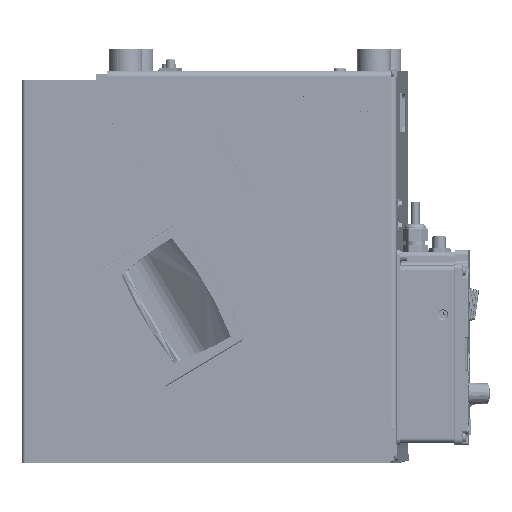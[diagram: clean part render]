
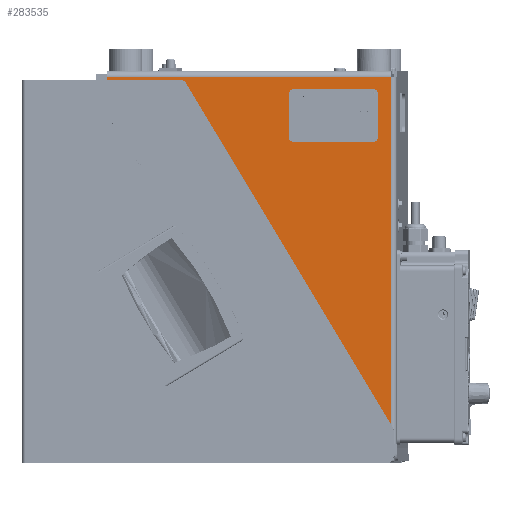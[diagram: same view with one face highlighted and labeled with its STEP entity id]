
A CAD part, front view. The second image highlights one B-rep face of the part: STEP entity #283535.
In plain terms, the highlighted planar face has unit normal (-0.023, -1, 0) by its records, which use the part's own axes.
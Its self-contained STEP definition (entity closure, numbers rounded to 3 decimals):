
#8345=FACE_BOUND($,#33384,.T.);
#16671=FACE_OUTER_BOUND($,#33383,.T.);
#33383=EDGE_LOOP($,(#194712,#194713,#194714,#194715,#194716,#194717,#194718,
#194719,#194720,#194721,#194722,#194723));
#33384=EDGE_LOOP($,(#194724,#194725,#194726,#194727,#194728,#194729,#194730,
#194731));
#47925=CIRCLE($,#300195,4.);
#47926=CIRCLE($,#300198,4.);
#47927=CIRCLE($,#300201,4.);
#47928=CIRCLE($,#300204,4.);
#47929=CIRCLE($,#300207,2.);
#47930=CIRCLE($,#300208,2.);
#47931=CIRCLE($,#300209,2.);
#57510=LINE($,#421710,#86703);
#57514=LINE($,#421719,#86707);
#57517=LINE($,#421727,#86710);
#57520=LINE($,#421735,#86713);
#57521=LINE($,#421742,#86714);
#57522=LINE($,#421744,#86715);
#57523=LINE($,#421748,#86716);
#57524=LINE($,#421750,#86717);
#57525=LINE($,#421752,#86718);
#57526=LINE($,#421754,#86719);
#57527=LINE($,#421756,#86720);
#57528=LINE($,#421758,#86721);
#57529=LINE($,#421762,#86722);
#86703=VECTOR($,#331358,39.);
#86707=VECTOR($,#331368,72.);
#86710=VECTOR($,#331377,39.);
#86713=VECTOR($,#331386,72.);
#86714=VECTOR($,#331395,13.452);
#86715=VECTOR($,#331396,4.);
#86716=VECTOR($,#331399,3.);
#86717=VECTOR($,#331400,1.);
#86718=VECTOR($,#331401,330.);
#86719=VECTOR($,#331402,255.);
#86720=VECTOR($,#331403,11.);
#86721=VECTOR($,#331404,60.605);
#86722=VECTOR($,#331407,359.963);
#117001=VERTEX_POINT($,#421707);
#117002=VERTEX_POINT($,#421709);
#117003=VERTEX_POINT($,#421713);
#117004=VERTEX_POINT($,#421717);
#117005=VERTEX_POINT($,#421721);
#117006=VERTEX_POINT($,#421725);
#117007=VERTEX_POINT($,#421729);
#117008=VERTEX_POINT($,#421733);
#117009=VERTEX_POINT($,#421740);
#117010=VERTEX_POINT($,#421741);
#117011=VERTEX_POINT($,#421743);
#117012=VERTEX_POINT($,#421745);
#117013=VERTEX_POINT($,#421747);
#117014=VERTEX_POINT($,#421749);
#117015=VERTEX_POINT($,#421751);
#117016=VERTEX_POINT($,#421753);
#117017=VERTEX_POINT($,#421755);
#117018=VERTEX_POINT($,#421757);
#117019=VERTEX_POINT($,#421759);
#117020=VERTEX_POINT($,#421761);
#146282=EDGE_CURVE($,#117002,#117001,#57510,.T.);
#146285=EDGE_CURVE($,#117001,#117003,#47925,.T.);
#146287=EDGE_CURVE($,#117003,#117004,#57514,.T.);
#146289=EDGE_CURVE($,#117004,#117005,#47926,.T.);
#146291=EDGE_CURVE($,#117005,#117006,#57517,.T.);
#146293=EDGE_CURVE($,#117006,#117007,#47927,.T.);
#146295=EDGE_CURVE($,#117007,#117008,#57520,.T.);
#146296=EDGE_CURVE($,#117008,#117002,#47928,.T.);
#146297=EDGE_CURVE($,#117009,#117010,#57521,.T.);
#146298=EDGE_CURVE($,#117010,#117011,#57522,.T.);
#146299=EDGE_CURVE($,#117012,#117011,#47929,.T.);
#146300=EDGE_CURVE($,#117012,#117013,#57523,.T.);
#146301=EDGE_CURVE($,#117013,#117014,#57524,.T.);
#146302=EDGE_CURVE($,#117015,#117014,#57525,.T.);
#146303=EDGE_CURVE($,#117015,#117016,#57526,.T.);
#146304=EDGE_CURVE($,#117016,#117017,#57527,.T.);
#146305=EDGE_CURVE($,#117017,#117018,#57528,.T.);
#146306=EDGE_CURVE($,#117018,#117019,#47930,.T.);
#146307=EDGE_CURVE($,#117019,#117020,#57529,.T.);
#146308=EDGE_CURVE($,#117020,#117009,#47931,.T.);
#194712=ORIENTED_EDGE($,*,*,#146297,.T.);
#194713=ORIENTED_EDGE($,*,*,#146298,.T.);
#194714=ORIENTED_EDGE($,*,*,#146299,.F.);
#194715=ORIENTED_EDGE($,*,*,#146300,.T.);
#194716=ORIENTED_EDGE($,*,*,#146301,.T.);
#194717=ORIENTED_EDGE($,*,*,#146302,.F.);
#194718=ORIENTED_EDGE($,*,*,#146303,.T.);
#194719=ORIENTED_EDGE($,*,*,#146304,.T.);
#194720=ORIENTED_EDGE($,*,*,#146305,.T.);
#194721=ORIENTED_EDGE($,*,*,#146306,.T.);
#194722=ORIENTED_EDGE($,*,*,#146307,.T.);
#194723=ORIENTED_EDGE($,*,*,#146308,.T.);
#194724=ORIENTED_EDGE($,*,*,#146282,.T.);
#194725=ORIENTED_EDGE($,*,*,#146285,.T.);
#194726=ORIENTED_EDGE($,*,*,#146287,.T.);
#194727=ORIENTED_EDGE($,*,*,#146289,.T.);
#194728=ORIENTED_EDGE($,*,*,#146291,.T.);
#194729=ORIENTED_EDGE($,*,*,#146293,.T.);
#194730=ORIENTED_EDGE($,*,*,#146295,.T.);
#194731=ORIENTED_EDGE($,*,*,#146296,.T.);
#255361=PLANE($,#300206);
#283535=ADVANCED_FACE($,(#16671,#8345),#255361,.T.);
#300195=AXIS2_PLACEMENT_3D($,#421715,#331363,#331364);
#300198=AXIS2_PLACEMENT_3D($,#421723,#331372,#331373);
#300201=AXIS2_PLACEMENT_3D($,#421731,#331381,#331382);
#300204=AXIS2_PLACEMENT_3D($,#421737,#331389,#331390);
#300206=AXIS2_PLACEMENT_3D($,#421739,#331393,#331394);
#300207=AXIS2_PLACEMENT_3D($,#421746,#331397,#331398);
#300208=AXIS2_PLACEMENT_3D($,#421760,#331405,#331406);
#300209=AXIS2_PLACEMENT_3D($,#421763,#331408,#331409);
#331358=DIRECTION($,(0.,0.,-1.));
#331363=DIRECTION('center_axis',(0.023,1.,0.));
#331364=DIRECTION('ref_axis',(0.,0.,
-1.));
#331368=DIRECTION($,(-1.,0.023,0.));
#331372=DIRECTION('center_axis',(0.023,1.,0.));
#331373=DIRECTION('ref_axis',(-1.,0.023,0.));
#331377=DIRECTION($,(0.,0.,1.));
#331381=DIRECTION('center_axis',(0.023,1.,0.));
#331382=DIRECTION('ref_axis',(0.,0.,
1.));
#331386=DIRECTION($,(1.,-0.023,0.));
#331389=DIRECTION('center_axis',(0.023,1.,0.));
#331390=DIRECTION('ref_axis',(1.,-0.023,0.));
#331393=DIRECTION('center_axis',(-0.023,-1.,
0.));
#331394=DIRECTION('ref_axis',(0.,0.,-1.));
#331395=DIRECTION($,(0.,0.,-1.));
#331396=DIRECTION($,(1.,-0.023,0.));
#331397=DIRECTION('center_axis',(0.023,1.,0.));
#331398=DIRECTION('ref_axis',(0.707,-0.017,-0.707));
#331399=DIRECTION($,(0.,0.,1.));
#331400=DIRECTION($,(1.,-0.023,0.));
#331401=DIRECTION($,(0.,0.,-1.));
#331402=DIRECTION($,(-1.,0.023,0.));
#331403=DIRECTION($,(0.,0.,-1.));
#331404=DIRECTION($,(1.,-0.023,0.));
#331405=DIRECTION('center_axis',(0.023,1.,0.));
#331406=DIRECTION('ref_axis',(-0.857,0.02,-0.515));
#331407=DIRECTION($,(0.515,-0.012,-0.857));
#331408=DIRECTION('center_axis',(0.023,1.,0.));
#331409=DIRECTION('ref_axis',(-1.,0.023,0.));
#421707=CARTESIAN_POINT('',(70.845,-268.784,-57.));
#421709=CARTESIAN_POINT('',(70.845,-268.784,-18.));
#421710=CARTESIAN_POINT($,(70.845,-268.784,-18.));
#421713=CARTESIAN_POINT('',(66.847,-268.691,-61.));
#421715=CARTESIAN_POINT('Origin',(66.847,-268.691,-57.));
#421717=CARTESIAN_POINT('',(-5.134,-267.009,-61.));
#421719=CARTESIAN_POINT($,(66.847,-268.691,-61.));
#421721=CARTESIAN_POINT('',(-9.133,-266.915,-57.));
#421723=CARTESIAN_POINT('Origin',(-5.134,-267.009,-57.));
#421725=CARTESIAN_POINT('',(-9.133,-266.915,-18.));
#421727=CARTESIAN_POINT($,(-9.133,-266.915,-57.));
#421729=CARTESIAN_POINT('',(-5.134,-267.009,-14.));
#421731=CARTESIAN_POINT('Origin',(-5.134,-267.009,-18.));
#421733=CARTESIAN_POINT('',(66.847,-268.691,-14.));
#421735=CARTESIAN_POINT($,(-5.134,-267.009,-14.));
#421737=CARTESIAN_POINT('Origin',(66.847,-268.691,-18.));
#421739=CARTESIAN_POINT('Origin',(-172.588,-263.095,2.5));
#421740=CARTESIAN_POINT('',(75.344,-268.889,-324.048));
#421741=CARTESIAN_POINT('',(75.344,-268.889,-337.5));
#421742=CARTESIAN_POINT($,(75.344,-268.889,-324.048));
#421743=CARTESIAN_POINT('',(79.343,-268.983,-337.5));
#421744=CARTESIAN_POINT($,(75.344,-268.889,-337.5));
#421745=CARTESIAN_POINT('',(81.343,-269.029,-335.5));
#421746=CARTESIAN_POINT('Origin',(79.343,-268.983,-335.5));
#421747=CARTESIAN_POINT('',(81.343,-269.029,-332.5));
#421748=CARTESIAN_POINT($,(81.343,-269.029,-335.5));
#421749=CARTESIAN_POINT('',(82.342,-269.053,-332.5));
#421750=CARTESIAN_POINT($,(81.343,-269.029,-332.5));
#421751=CARTESIAN_POINT('',(82.342,-269.053,-2.5));
#421752=CARTESIAN_POINT($,(82.342,-269.053,-2.5));
#421753=CARTESIAN_POINT('',(-172.588,-263.095,-2.5));
#421754=CARTESIAN_POINT($,(82.342,-269.053,-2.5));
#421755=CARTESIAN_POINT('',(-172.588,-263.095,-13.5));
#421756=CARTESIAN_POINT($,(-172.588,-263.095,-2.5));
#421757=CARTESIAN_POINT('',(-111.999,-264.511,-13.5));
#421758=CARTESIAN_POINT($,(-172.588,-263.095,-13.5));
#421759=CARTESIAN_POINT('',(-110.285,-264.551,-14.47));
#421760=CARTESIAN_POINT('Origin',(-111.999,-264.511,-15.5));
#421761=CARTESIAN_POINT('',(75.059,-268.882,-323.018));
#421762=CARTESIAN_POINT($,(-110.285,-264.551,-14.47));
#421763=CARTESIAN_POINT('Origin',(73.345,-268.842,-324.048));
